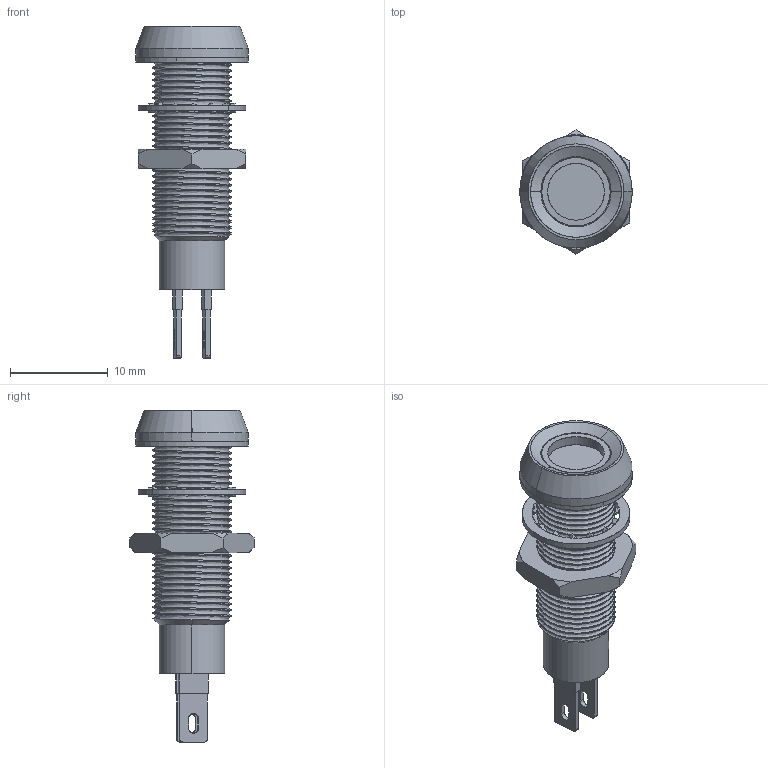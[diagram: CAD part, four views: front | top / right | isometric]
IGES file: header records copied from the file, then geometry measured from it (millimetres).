
Start section: SolidWorks IGES file using analytic representation for surfaces
Global section: file name: C:\Users\paulr\Desktop\508 series.IGS; native system: SolidWorks 2014; preprocessor: SolidWorks 2014; author: paulr; date: 140702.085418; units: millimetre
Bounding box: 11.5 x 12.7 x 33.98 mm (x, y, z)
Surface area: 2368.6 mm2 (no closed solid volume)
Topology: 0 solids, 0 shells, 370 faces, 4766 edges, 4766 vertices
Faces by surface type: bspline 209, revolution 161
